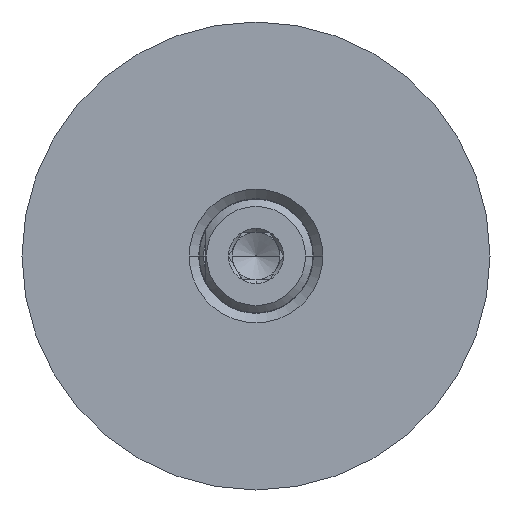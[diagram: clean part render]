
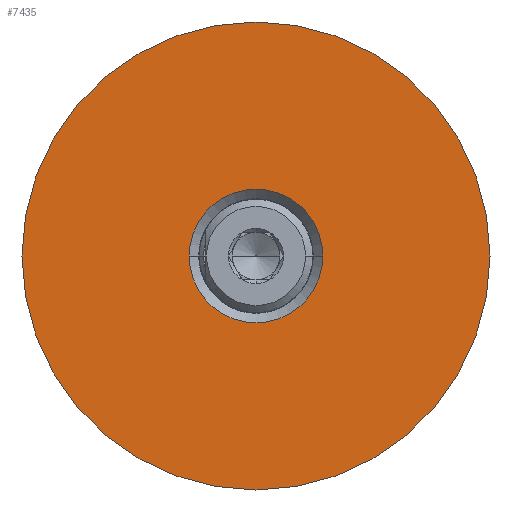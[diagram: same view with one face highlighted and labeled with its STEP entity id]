
A CAD part, left-side view. The second image highlights one B-rep face of the part: STEP entity #7435.
In plain terms, the highlighted planar face has unit normal (-1, 0, 0).
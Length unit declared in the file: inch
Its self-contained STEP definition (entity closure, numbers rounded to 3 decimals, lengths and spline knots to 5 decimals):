
#7243=CARTESIAN_POINT('',(0.,-0.2185,2.61));
#7244=VERTEX_POINT('',#7243);
#7252=CARTESIAN_POINT('',(0.,0.2185,2.61));
#7253=VERTEX_POINT('',#7252);
#7260=CARTESIAN_POINT('',(0.,0.0,2.61));
#7261=DIRECTION('',(-1.0,0.0,0.0));
#7262=DIRECTION('',(0.0,-1.0,0.0));
#7263=AXIS2_PLACEMENT_3D('',#7260,#7261,#7262);
#7264=CIRCLE('',#7263,0.2185);
#7265=EDGE_CURVE('',#7253,#7244,#7264,.T.);
#7277=CARTESIAN_POINT('',(0.,-0.765,2.61));
#7278=VERTEX_POINT('',#7277);
#7294=CARTESIAN_POINT('',(0.,0.765,2.61));
#7295=VERTEX_POINT('',#7294);
#7302=CARTESIAN_POINT('',(0.,0.0,2.61));
#7303=DIRECTION('',(-1.0,0.0,0.0));
#7304=DIRECTION('',(0.0,-1.0,0.0));
#7305=AXIS2_PLACEMENT_3D('',#7302,#7303,#7304);
#7306=CIRCLE('',#7305,0.765);
#7307=EDGE_CURVE('',#7278,#7295,#7306,.T.);
#7404=CARTESIAN_POINT('',(0.,0.0,2.61));
#7405=DIRECTION('',(-1.0,0.0,0.0));
#7406=DIRECTION('',(0.0,-1.0,0.0));
#7407=AXIS2_PLACEMENT_3D('',#7404,#7405,#7406);
#7408=CIRCLE('',#7407,0.765);
#7409=EDGE_CURVE('',#7295,#7278,#7408,.T.);
#7416=CARTESIAN_POINT('',(0.,-0.49175,2.61));
#7417=DIRECTION('',(-1.0,0.0,0.0));
#7418=DIRECTION('',(0.0,0.0,1.0));
#7419=AXIS2_PLACEMENT_3D('',#7416,#7417,#7418);
#7420=PLANE('',#7419);
#7421=ORIENTED_EDGE('',*,*,#7307,.T.);
#7422=ORIENTED_EDGE('',*,*,#7409,.T.);
#7423=EDGE_LOOP('',(#7421,#7422));
#7424=FACE_OUTER_BOUND('',#7423,.T.);
#7425=CARTESIAN_POINT('',(0.,0.0,2.61));
#7426=DIRECTION('',(-1.0,0.0,0.0));
#7427=DIRECTION('',(0.0,-1.0,0.0));
#7428=AXIS2_PLACEMENT_3D('',#7425,#7426,#7427);
#7429=CIRCLE('',#7428,0.2185);
#7430=EDGE_CURVE('',#7244,#7253,#7429,.T.);
#7431=ORIENTED_EDGE('',*,*,#7430,.F.);
#7432=ORIENTED_EDGE('',*,*,#7265,.F.);
#7433=EDGE_LOOP('',(#7431,#7432));
#7434=FACE_BOUND('',#7433,.T.);
#7435=ADVANCED_FACE('',(#7424,#7434),#7420,.T.);
